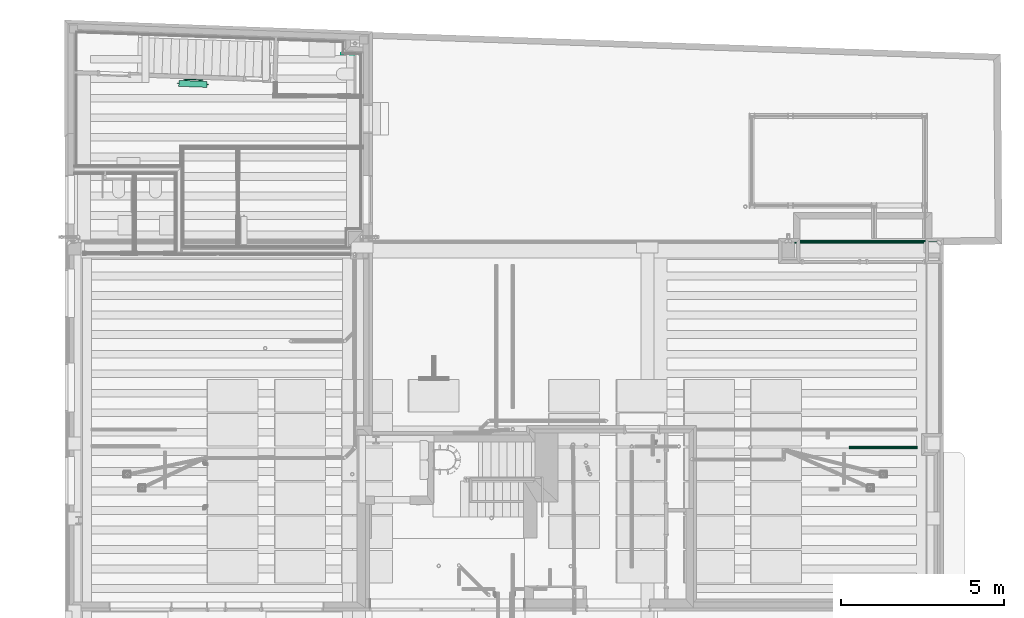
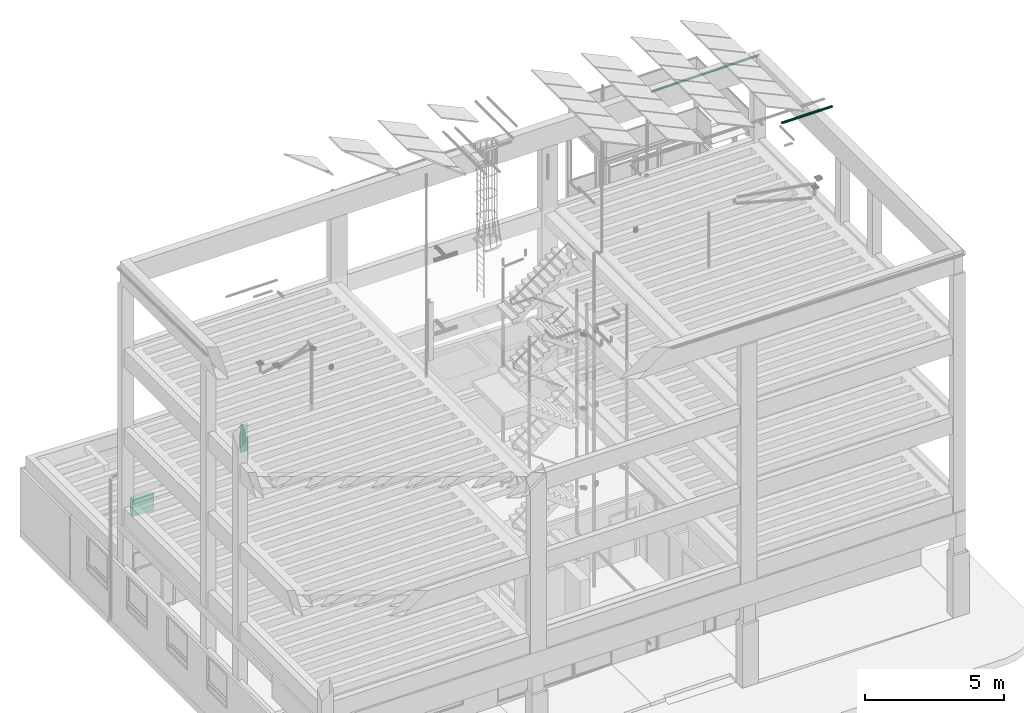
# One storey, part 68 of 108: 2 flow segments, 2 flow terminals.
"""IFC2X3 building model written with IfcOpenShell, lengths in metres."""

from ifc_helpers import new_model, entity, si_unit, converted_unit, derived_unit, money_unit, direction, frame, origin_with_axes, place, context, subcontext, project, spatial, open_shell, faceted_brep, surface_model, material, type_object, element, save


model = new_model("IFC2X3")

# Units and contexts
model_context = context("Model", 3, precision=1e-05, world=origin_with_axes(), true_north=direction((0.0, 1.0)))
body_context = subcontext(model_context, "Body", "Model", "MODEL_VIEW", scale=1.0)
ifc_project = project(units=[si_unit("LENGTHUNIT", "METRE"), si_unit("AREAUNIT", "SQUARE_METRE"), si_unit("VOLUMEUNIT", "CUBIC_METRE"), si_unit("ABSORBEDDOSEUNIT", "GRAY"), si_unit("AMOUNTOFSUBSTANCEUNIT", "MOLE"), si_unit("DOSEEQUIVALENTUNIT", "SIEVERT"), si_unit("ELECTRICCAPACITANCEUNIT", "FARAD"), si_unit("ELECTRICCHARGEUNIT", "COULOMB"), si_unit("ELECTRICCONDUCTANCEUNIT", "SIEMENS"), si_unit("ELECTRICCURRENTUNIT", "AMPERE"), si_unit("ELECTRICRESISTANCEUNIT", "OHM"), si_unit("ELECTRICVOLTAGEUNIT", "VOLT"), si_unit("ENERGYUNIT", "JOULE"), si_unit("FORCEUNIT", "NEWTON"), si_unit("FREQUENCYUNIT", "HERTZ"), si_unit("ILLUMINANCEUNIT", "LUX"), si_unit("INDUCTANCEUNIT", "HENRY"), si_unit("LUMINOUSFLUXUNIT", "LUMEN"), si_unit("LUMINOUSINTENSITYUNIT", "CANDELA"), si_unit("MAGNETICFLUXDENSITYUNIT", "TESLA"), si_unit("MAGNETICFLUXUNIT", "WEBER"), si_unit("MASSUNIT", "GRAM"), converted_unit("PLANEANGLEUNIT", "degree", entity("IfcReal", 0.0174532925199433), si_unit("PLANEANGLEUNIT", "RADIAN"), dimensions=[0, 0, 0, 0, 0, 0, 0]), si_unit("POWERUNIT", "WATT"), si_unit("PRESSUREUNIT", "PASCAL"), si_unit("RADIOACTIVITYUNIT", "BECQUEREL"), si_unit("SOLIDANGLEUNIT", "STERADIAN"), si_unit("THERMODYNAMICTEMPERATUREUNIT", "KELVIN"), si_unit("TIMEUNIT", "SECOND"), derived_unit("ACCELERATIONUNIT", [(si_unit("LENGTHUNIT", "METRE"), 1), (si_unit("TIMEUNIT", "SECOND"), -2)]), derived_unit("ANGULARVELOCITYUNIT", [(converted_unit("PLANEANGLEUNIT", "degree", entity("IfcReal", 0.0174532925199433), si_unit("PLANEANGLEUNIT", "RADIAN"), dimensions=[0, 0, 0, 0, 0, 0, 0]), 1), (si_unit("TIMEUNIT", "SECOND"), -1)]), derived_unit("CURVATUREUNIT", [(converted_unit("PLANEANGLEUNIT", "degree", entity("IfcReal", 0.0174532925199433), si_unit("PLANEANGLEUNIT", "RADIAN"), dimensions=[0, 0, 0, 0, 0, 0, 0]), 1), (si_unit("LENGTHUNIT", "METRE"), -1)]), derived_unit("DYNAMICVISCOSITYUNIT", [(si_unit("PRESSUREUNIT", "PASCAL"), 1), (si_unit("TIMEUNIT", "SECOND"), 1)]), derived_unit("HEATFLUXDENSITYUNIT", [(si_unit("POWERUNIT", "WATT"), 1), (si_unit("LENGTHUNIT", "METRE"), -2)]), derived_unit("HEATINGVALUEUNIT", [(si_unit("ENERGYUNIT", "JOULE"), 1), (si_unit("MASSUNIT", "GRAM"), -1)]), derived_unit("INTEGERCOUNTRATEUNIT", [(si_unit("TIMEUNIT", "SECOND"), -1)]), derived_unit("IONCONCENTRATIONUNIT", [(si_unit("MASSUNIT", "GRAM"), 1), (si_unit("VOLUMEUNIT", "CUBIC_METRE"), -1)]), derived_unit("ISOTHERMALMOISTURECAPACITYUNIT", [(si_unit("VOLUMEUNIT", "CUBIC_METRE"), 1), (si_unit("MASSUNIT", "GRAM"), -1)]), derived_unit("KINEMATICVISCOSITYUNIT", [(si_unit("AREAUNIT", "SQUARE_METRE"), 1), (si_unit("TIMEUNIT", "SECOND"), -1)]), derived_unit("LINEARFORCEUNIT", [(si_unit("FORCEUNIT", "NEWTON"), 1), (si_unit("LENGTHUNIT", "METRE"), -1)]), derived_unit("LINEARMOMENTUNIT", [(si_unit("FORCEUNIT", "NEWTON"), 1), (si_unit("LENGTHUNIT", "METRE"), -1)]), derived_unit("LINEARSTIFFNESSUNIT", [(si_unit("FORCEUNIT", "NEWTON"), 1), (si_unit("LENGTHUNIT", "METRE"), -1)]), derived_unit("LINEARVELOCITYUNIT", [(si_unit("LENGTHUNIT", "METRE"), 1), (si_unit("TIMEUNIT", "SECOND"), -1)]), derived_unit("LUMINOUSINTENSITYDISTRIBUTIONUNIT", [(si_unit("LUMINOUSINTENSITYUNIT", "CANDELA"), 1), (si_unit("LUMINOUSFLUXUNIT", "LUMEN"), -1)]), derived_unit("MASSDENSITYUNIT", [(si_unit("MASSUNIT", "GRAM"), 1), (si_unit("VOLUMEUNIT", "CUBIC_METRE"), -1)]), derived_unit("MASSFLOWRATEUNIT", [(si_unit("MASSUNIT", "GRAM"), 1), (si_unit("TIMEUNIT", "SECOND"), -1)]), derived_unit("MASSPERLENGTHUNIT", [(si_unit("MASSUNIT", "GRAM"), 1), (si_unit("LENGTHUNIT", "METRE"), -1)]), derived_unit("MODULUSOFELASTICITYUNIT", [(si_unit("FORCEUNIT", "NEWTON"), 1), (si_unit("AREAUNIT", "SQUARE_METRE"), -1)]), derived_unit("MODULUSOFLINEARSUBGRADEREACTIONUNIT", [(si_unit("FORCEUNIT", "NEWTON"), 1), (si_unit("LENGTHUNIT", "METRE"), -2)]), derived_unit("MODULUSOFROTATIONALSUBGRADEREACTIONUNIT", [(si_unit("FORCEUNIT", "NEWTON"), 1), (si_unit("LENGTHUNIT", "METRE"), 1)]), derived_unit("MODULUSOFSUBGRADEREACTIONUNIT", [(si_unit("FORCEUNIT", "NEWTON"), 1), (si_unit("VOLUMEUNIT", "CUBIC_METRE"), -1)]), derived_unit("MOISTUREDIFFUSIVITYUNIT", [(si_unit("VOLUMEUNIT", "CUBIC_METRE"), 1), (si_unit("TIMEUNIT", "SECOND"), -1)]), derived_unit("MOLECULARWEIGHTUNIT", [(si_unit("MASSUNIT", "GRAM"), 1), (si_unit("AMOUNTOFSUBSTANCEUNIT", "MOLE"), -1)]), derived_unit("PLANARFORCEUNIT", [(si_unit("FORCEUNIT", "NEWTON"), 1), (si_unit("LENGTHUNIT", "METRE"), -2)]), derived_unit("ROTATIONALFREQUENCYUNIT", [(si_unit("TIMEUNIT", "SECOND"), -1)]), derived_unit("ROTATIONALMASSUNIT", [(si_unit("MASSUNIT", "GRAM"), 1), (si_unit("LENGTHUNIT", "METRE"), 2)]), derived_unit("ROTATIONALSTIFFNESSUNIT", [(si_unit("FORCEUNIT", "NEWTON"), 1), (si_unit("LENGTHUNIT", "METRE"), 1), (converted_unit("PLANEANGLEUNIT", "degree", entity("IfcReal", 0.0174532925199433), si_unit("PLANEANGLEUNIT", "RADIAN"), dimensions=[0, 0, 0, 0, 0, 0, 0]), -1)]), derived_unit("SECTIONAREAINTEGRALUNIT", [(si_unit("LENGTHUNIT", "METRE"), 5)]), derived_unit("SECTIONMODULUSUNIT", [(si_unit("LENGTHUNIT", "METRE"), 3)]), derived_unit("SHEARMODULUSUNIT", [(si_unit("FORCEUNIT", "NEWTON"), 1), (si_unit("AREAUNIT", "SQUARE_METRE"), -1)]), derived_unit("SOUNDPOWERUNIT", [(si_unit("ENERGYUNIT", "JOULE"), 1), (si_unit("TIMEUNIT", "SECOND"), -1)]), derived_unit("SPECIFICHEATCAPACITYUNIT", [(si_unit("FORCEUNIT", "NEWTON"), 1), (si_unit("MASSUNIT", "GRAM"), -1), (si_unit("THERMODYNAMICTEMPERATUREUNIT", "KELVIN"), -1)]), derived_unit("TEMPERATUREGRADIENTUNIT", [(si_unit("THERMODYNAMICTEMPERATUREUNIT", "KELVIN"), 1), (si_unit("LENGTHUNIT", "METRE"), -1)]), derived_unit("THERMALADMITTANCEUNIT", [(si_unit("POWERUNIT", "WATT"), 1), (si_unit("AREAUNIT", "SQUARE_METRE"), -1), (si_unit("THERMODYNAMICTEMPERATUREUNIT", "KELVIN"), -1)]), derived_unit("THERMALCONDUCTANCEUNIT", [(si_unit("POWERUNIT", "WATT"), 1), (si_unit("LENGTHUNIT", "METRE"), -1), (si_unit("THERMODYNAMICTEMPERATUREUNIT", "KELVIN"), -1)]), derived_unit("THERMALEXPANSIONCOEFFICIENTUNIT", [(si_unit("THERMODYNAMICTEMPERATUREUNIT", "KELVIN"), -1)]), derived_unit("THERMALRESISTANCEUNIT", [(si_unit("AREAUNIT", "SQUARE_METRE"), 1), (si_unit("POWERUNIT", "WATT"), -1)]), derived_unit("THERMALTRANSMITTANCEUNIT", [(si_unit("POWERUNIT", "WATT"), 1), (si_unit("AREAUNIT", "SQUARE_METRE"), -1), (si_unit("THERMODYNAMICTEMPERATUREUNIT", "KELVIN"), -1)]), derived_unit("TORQUEUNIT", [(si_unit("FORCEUNIT", "NEWTON"), 1), (si_unit("LENGTHUNIT", "METRE"), 1)]), derived_unit("VAPORPERMEABILITYUNIT", [(si_unit("MASSUNIT", "GRAM"), 1), (si_unit("TIMEUNIT", "SECOND"), -1)]), derived_unit("VOLUMETRICFLOWRATEUNIT", [(si_unit("VOLUMEUNIT", "CUBIC_METRE"), 1), (si_unit("TIMEUNIT", "SECOND"), -1)]), derived_unit("WARPINGCONSTANTUNIT", [(si_unit("LENGTHUNIT", "METRE"), 6)]), derived_unit("WARPINGMOMENTUNIT", [(si_unit("FORCEUNIT", "NEWTON"), 1), (si_unit("LENGTHUNIT", "METRE"), 2)]), money_unit("GBP")], contexts=[model_context])

# Site, building, storey
site_placement = place(None, origin_with_axes())
site = spatial("IfcSite", under=ifc_project, at=site_placement, Name="Site", CompositionType="ELEMENT")
building_placement = place(site_placement, origin_with_axes())
building = spatial("IfcBuilding", under=site, at=building_placement, Name="Building01", CompositionType="ELEMENT")
storey_placement = place(building_placement, origin_with_axes())
storey = spatial("IfcBuildingStorey", under=building, at=storey_placement, Name="GF", CompositionType="ELEMENT", Elevation=0.0)

# Flow segments
ifc_material_1 = material(Name="M_BSUK_Ventilation")
duct_segment_type = type_object("IfcDuctSegmentType", Name="M-RoundDuct", PredefinedType="RIGIDSEGMENT")
flow_segment_1_placement = place(storey_placement, frame((26.180061, 8.482559, 17.28), z_axis=(0.0, 0.0, 1.0), x_axis=(-1.0, 0.0, 0.0)))
element("IfcFlowSegment", 1, at=flow_segment_1_placement, inside=storey, type_object=duct_segment_type, material=ifc_material_1, Name="M-RoundDuct", ObjectType="M-RoundDuct", context=body_context, shape_type="Brep", body=[
    faceted_brep([(2.100061, 0.0, -0.05), (0.0, 0.0, -0.05), (0.0, 0.019134, -0.046194), (2.100061, 0.019134, -0.046194), (0.0, 0.035355, -0.035355), (2.100061, 0.035355, -0.035355), (0.0, 0.046194, -0.019134), (2.100061, 0.046194, -0.019134), (0.0, 0.05, 0.0), (2.100061, 0.05, 0.0), (0.0, 0.046194, 0.019134), (2.100061, 0.046194, 0.019134), (0.0, 0.035355, 0.035355), (2.100061, 0.035355, 0.035355), (0.0, 0.019134, 0.046194), (2.100061, 0.019134, 0.046194), (0.0, 0.0, 0.05), (2.100061, 0.0, 0.05), (0.0, -0.019134, 0.046194), (2.100061, -0.019134, 0.046194), (0.0, -0.035355, 0.035355), (2.100061, -0.035355, 0.035355), (0.0, -0.046194, 0.019134), (2.100061, -0.046194, 0.019134), (0.0, -0.05, 0.0), (2.100061, -0.05, 0.0), (0.0, -0.046194, -0.019134), (2.100061, -0.046194, -0.019134), (0.0, -0.035355, -0.035355), (2.100061, -0.035355, -0.035355), (0.0, -0.019134, -0.046194), (2.100061, -0.019134, -0.046194)], [[[0, 1, 2, 3]], [[3, 2, 4, 5]], [[5, 4, 6, 7]], [[7, 6, 8, 9]], [[9, 8, 10, 11]], [[11, 10, 12, 13]], [[13, 12, 14, 15]], [[15, 14, 16, 17]], [[17, 16, 18, 19]], [[19, 18, 20, 21]], [[21, 20, 22, 23]], [[23, 22, 24, 25]], [[25, 24, 26, 27]], [[27, 26, 28, 29]], [[29, 28, 30, 31]], [[31, 30, 1, 0]]]),
])
ifc_material_2 = material(Name="M_BSUK_ColdWater")
pipe_segment_type = type_object("IfcPipeSegmentType", Name="M-BmpStraightpipe-DefaultPipe", PredefinedType="RIGIDSEGMENT")
flow_segment_2_placement = place(storey_placement, frame((22.311365, 14.80601, 15.440295), z_axis=(0.0, -1.0, 0.0), x_axis=(-0.99994498, 0.0, -0.01049024)))
element("IfcFlowSegment", 2, at=flow_segment_2_placement, inside=storey, type_object=pipe_segment_type, material=ifc_material_2, Name="M-BmpStraightpipe-DefaultPipe", ObjectType="M-BmpStraightpipe-DefaultPipe", context=body_context, shape_type="Brep", body=[
    faceted_brep([(-4.475881, 0.0, -0.05), (0.0, 0.0, -0.05), (0.0, -0.019134, -0.046194), (-4.475881, -0.019134, -0.046194), (0.0, -0.035355, -0.035355), (-4.475881, -0.035355, -0.035355), (0.0, -0.046194, -0.019134), (-4.475881, -0.046194, -0.019134), (0.0, -0.05, 0.0), (-4.475881, -0.05, 0.0), (0.0, -0.046194, 0.019134), (-4.475881, -0.046194, 0.019134), (0.0, -0.035355, 0.035355), (-4.475881, -0.035355, 0.035355), (0.0, -0.019134, 0.046194), (-4.475881, -0.019134, 0.046194), (0.0, 0.0, 0.05), (-4.475881, 0.0, 0.05), (0.0, 0.019134, 0.046194), (-4.475881, 0.019134, 0.046194), (0.0, 0.035355, 0.035355), (-4.475881, 0.035355, 0.035355), (0.0, 0.046194, 0.019134), (-4.475881, 0.046194, 0.019134), (0.0, 0.05, 0.0), (-4.475881, 0.05, 0.0), (0.0, 0.046194, -0.019134), (-4.475881, 0.046194, -0.019134), (0.0, 0.035355, -0.035355), (-4.475881, 0.035355, -0.035355), (0.0, 0.019134, -0.046194), (-4.475881, 0.019134, -0.046194)], [[[0, 1, 2, 3]], [[3, 2, 4, 5]], [[5, 4, 6, 7]], [[7, 6, 8, 9]], [[9, 8, 10, 11]], [[11, 10, 12, 13]], [[13, 12, 14, 15]], [[15, 14, 16, 17]], [[17, 16, 18, 19]], [[19, 18, 20, 21]], [[21, 20, 22, 23]], [[23, 22, 24, 25]], [[25, 24, 26, 27]], [[27, 26, 28, 29]], [[29, 28, 30, 31]], [[31, 30, 1, 0]]]),
])

# Space
space_1_placement = place(storey_placement, frame((8.552822, 20.936203, 0.217025), z_axis=(0.0, 0.0, 1.0), x_axis=(-0.99931258, 0.03707243, 0.0)))
space_1 = spatial("IfcSpace", under=storey, at=space_1_placement, Name="01", CompositionType="ELEMENT", InteriorOrExteriorSpace="NOTDEFINED")

# Flow terminal
space_heater_type_1 = type_object("IfcSpaceHeaterType", Name="M-BmvRadiatorpanel-Panel", PredefinedType="NOTDEFINED")
flow_terminal_1_placement = place(storey_placement, frame((3.496907, 19.667401, 0.813), z_axis=(0.0, 0.0, 1.0), x_axis=(0.99931515, -0.03700317, 0.0)))
element("IfcFlowTerminal", 3, at=flow_terminal_1_placement, inside=space_1, type_object=space_heater_type_1, material=ifc_material_1, Name="M-BmvRadiatorpanel-Panel", ObjectType="M-BmvRadiatorpanel-Panel", context=body_context, shape_type="SurfaceModel", body=[
    surface_model("IfcShellBasedSurfaceModel", [(0.865, -0.0925, 0.365), (0.865, 0.0925, 0.365), (0.0, 0.0925, 0.365), (0.0, -0.0925, 0.365), (0.865, -0.0925, -0.365), (0.865, 0.0925, -0.365), (0.0, -0.0925, -0.365), (0.0, 0.0925, -0.365), (0.1325, 0.12025, 0.175), (0.7325, 0.12025, 0.175), (0.7325, 0.14525, 0.175), (0.1325, 0.14525, 0.175), (0.7325, 0.14525, -0.175), (0.1325, 0.14525, -0.175), (0.7325, 0.12025, -0.175), (0.1325, 0.12025, -0.175), (0.2225, 0.0925, 0.0775), (0.2225, 0.12025, 0.0775), (0.239721, 0.12025, 0.080925), (0.239721, 0.0925, 0.080925), (0.25432, 0.12025, 0.09068), (0.25432, 0.0925, 0.09068), (0.264075, 0.12025, 0.105279), (0.264075, 0.0925, 0.105279), (0.2675, 0.12025, 0.1225), (0.2675, 0.0925, 0.1225), (0.264075, 0.12025, 0.139721), (0.264075, 0.0925, 0.139721), (0.25432, 0.12025, 0.15432), (0.25432, 0.0925, 0.15432), (0.239721, 0.12025, 0.164075), (0.239721, 0.0925, 0.164075), (0.2225, 0.12025, 0.1675), (0.2225, 0.0925, 0.1675), (0.205279, 0.12025, 0.164075), (0.205279, 0.0925, 0.164075), (0.19068, 0.12025, 0.15432), (0.19068, 0.0925, 0.15432), (0.180925, 0.12025, 0.139721), (0.180925, 0.0925, 0.139721), (0.1775, 0.12025, 0.1225), (0.1775, 0.0925, 0.1225), (0.180925, 0.12025, 0.105279), (0.180925, 0.0925, 0.105279), (0.19068, 0.12025, 0.09068), (0.19068, 0.0925, 0.09068), (0.205279, 0.12025, 0.080925), (0.205279, 0.0925, 0.080925), (0.6425, 0.0925, 0.0775), (0.6425, 0.12025, 0.0775), (0.659721, 0.12025, 0.080925), (0.659721, 0.0925, 0.080925), (0.67432, 0.12025, 0.09068), (0.67432, 0.0925, 0.09068), (0.684075, 0.12025, 0.105279), (0.684075, 0.0925, 0.105279), (0.6875, 0.12025, 0.1225), (0.6875, 0.0925, 0.1225), (0.684075, 0.12025, 0.139721), (0.684075, 0.0925, 0.139721), (0.67432, 0.12025, 0.15432), (0.67432, 0.0925, 0.15432), (0.659721, 0.12025, 0.164075), (0.659721, 0.0925, 0.164075), (0.6425, 0.12025, 0.1675), (0.6425, 0.0925, 0.1675), (0.625279, 0.12025, 0.164075), (0.625279, 0.0925, 0.164075), (0.61068, 0.12025, 0.15432), (0.61068, 0.0925, 0.15432), (0.600925, 0.12025, 0.139721), (0.600925, 0.0925, 0.139721), (0.5975, 0.12025, 0.1225), (0.5975, 0.0925, 0.1225), (0.600925, 0.12025, 0.105279), (0.600925, 0.0925, 0.105279), (0.61068, 0.12025, 0.09068), (0.61068, 0.0925, 0.09068), (0.625279, 0.12025, 0.080925), (0.625279, 0.0925, 0.080925), (-0.05, 0.0, -0.0225), (0.0, 0.0, -0.0225), (0.0, -0.004784, -0.021548), (-0.05, -0.004784, -0.021548), (0.0, -0.008839, -0.018839), (-0.05, -0.008839, -0.018839), (0.0, -0.011548, -0.014784), (-0.05, -0.011548, -0.014784), (0.0, -0.0125, -0.01), (-0.05, -0.0125, -0.01), (0.0, -0.011548, -0.005216), (-0.05, -0.011548, -0.005216), (0.0, -0.008839, -0.001161), (-0.05, -0.008839, -0.001161), (0.0, -0.004784, 0.001548), (-0.05, -0.004784, 0.001548), (0.0, 0.0, 0.0025), (-0.05, 0.0, 0.0025), (0.0, 0.004784, 0.001548), (-0.05, 0.004784, 0.001548), (0.0, 0.008839, -0.001161), (-0.05, 0.008839, -0.001161), (0.0, 0.011548, -0.005216), (-0.05, 0.011548, -0.005216), (0.0, 0.0125, -0.01), (-0.05, 0.0125, -0.01), (0.0, 0.011548, -0.014784), (-0.05, 0.011548, -0.014784), (0.0, 0.008839, -0.018839), (-0.05, 0.008839, -0.018839), (0.0, 0.004784, -0.021548), (-0.05, 0.004784, -0.021548), (0.915, 0.0, 0.2525), (0.865, 0.0, 0.2525), (0.865, 0.004784, 0.253452), (0.915, 0.004784, 0.253452), (0.865, 0.008839, 0.256161), (0.915, 0.008839, 0.256161), (0.865, 0.011548, 0.260216), (0.915, 0.011548, 0.260216), (0.865, 0.0125, 0.265), (0.915, 0.0125, 0.265), (0.865, 0.011548, 0.269784), (0.915, 0.011548, 0.269784), (0.865, 0.008839, 0.273839), (0.915, 0.008839, 0.273839), (0.865, 0.004784, 0.276548), (0.915, 0.004784, 0.276548), (0.865, 0.0, 0.2775), (0.915, 0.0, 0.2775), (0.865, -0.004784, 0.276548), (0.915, -0.004784, 0.276548), (0.865, -0.008839, 0.273839), (0.915, -0.008839, 0.273839), (0.865, -0.011548, 0.269784), (0.915, -0.011548, 0.269784), (0.865, -0.0125, 0.265), (0.915, -0.0125, 0.265), (0.865, -0.011548, 0.260216), (0.915, -0.011548, 0.260216), (0.865, -0.008839, 0.256161), (0.915, -0.008839, 0.256161), (0.865, -0.004784, 0.253452), (0.915, -0.004784, 0.253452)], [open_shell([[[0, 1, 2, 3]], [[4, 5, 1, 0]], [[6, 7, 5, 4]], [[3, 2, 7, 6]], [[1, 5, 7, 2]], [[3, 6, 4, 0]], [[8, 9, 10, 11]], [[11, 10, 12, 13]], [[13, 12, 14, 15]], [[15, 14, 9, 8]], [[9, 14, 12, 10]], [[11, 13, 15, 8]], [[16, 17, 18, 19]], [[19, 18, 20, 21]], [[21, 20, 22, 23]], [[23, 22, 24, 25]], [[25, 24, 26, 27]], [[27, 26, 28, 29]], [[29, 28, 30, 31]], [[31, 30, 32, 33]], [[33, 32, 34, 35]], [[35, 34, 36, 37]], [[37, 36, 38, 39]], [[39, 38, 40, 41]], [[41, 40, 42, 43]], [[43, 42, 44, 45]], [[45, 44, 46, 47]], [[47, 46, 17, 16]], [[48, 49, 50, 51]], [[51, 50, 52, 53]], [[53, 52, 54, 55]], [[55, 54, 56, 57]], [[57, 56, 58, 59]], [[59, 58, 60, 61]], [[61, 60, 62, 63]], [[63, 62, 64, 65]], [[65, 64, 66, 67]], [[67, 66, 68, 69]], [[69, 68, 70, 71]], [[71, 70, 72, 73]], [[73, 72, 74, 75]], [[75, 74, 76, 77]], [[77, 76, 78, 79]], [[79, 78, 49, 48]], [[80, 81, 82, 83]], [[83, 82, 84, 85]], [[85, 84, 86, 87]], [[87, 86, 88, 89]], [[89, 88, 90, 91]], [[91, 90, 92, 93]], [[93, 92, 94, 95]], [[95, 94, 96, 97]], [[97, 96, 98, 99]], [[99, 98, 100, 101]], [[101, 100, 102, 103]], [[103, 102, 104, 105]], [[105, 104, 106, 107]], [[107, 106, 108, 109]], [[109, 108, 110, 111]], [[111, 110, 81, 80]], [[112, 113, 114, 115]], [[115, 114, 116, 117]], [[117, 116, 118, 119]], [[119, 118, 120, 121]], [[121, 120, 122, 123]], [[123, 122, 124, 125]], [[125, 124, 126, 127]], [[127, 126, 128, 129]], [[129, 128, 130, 131]], [[131, 130, 132, 133]], [[133, 132, 134, 135]], [[135, 134, 136, 137]], [[137, 136, 138, 139]], [[139, 138, 140, 141]], [[141, 140, 142, 143]], [[143, 142, 113, 112]]])]),
])

# Space
space_2_placement = place(storey_placement, frame((6.554029, 21.010355, 0.217025), z_axis=(0.0, 0.0, 1.0), x_axis=(-0.03350696, -0.99943848, 0.0)))
space_2 = spatial("IfcSpace", under=storey, at=space_2_placement, Name="bath", CompositionType="ELEMENT", InteriorOrExteriorSpace="NOTDEFINED")

# Flow terminal
space_heater_type_2 = type_object("IfcSpaceHeaterType", Name="M-BmvRadiator-Column", PredefinedType="NOTDEFINED")
flow_terminal_2_placement = place(storey_placement, frame((8.835973, 20.56213, 1.498), z_axis=(0.0, 0.0, 1.0), x_axis=(0.99937968, -0.03521735, 0.0)))
element("IfcFlowTerminal", 4, at=flow_terminal_2_placement, inside=space_2, type_object=space_heater_type_2, material=ifc_material_1, Name="M-BmvRadiator-Column", ObjectType="M-BmvRadiator-Column", context=body_context, shape_type="SurfaceModel", body=[
    surface_model("IfcShellBasedSurfaceModel", [(0.0, -0.0125, 0.6), (0.0, -0.0125, -0.6), (0.0, 0.0125, -0.6), (0.0, 0.0125, 0.6), (-0.3, -0.0125, 0.6), (-0.3, -0.0125, -0.6), (-0.3, 0.0125, -0.6), (-0.3, 0.0125, 0.6), (-0.06, 0.0125, 0.6), (-0.06, -0.0125, 0.6), (-0.06, -0.0125, -0.6), (-0.06, 0.0125, -0.6), (-0.12, 0.0125, 0.6), (-0.12, -0.0125, 0.6), (-0.12, -0.0125, -0.6), (-0.12, 0.0125, -0.6), (-0.18, 0.0125, 0.6), (-0.18, -0.0125, 0.6), (-0.18, -0.0125, -0.6), (-0.18, 0.0125, -0.6), (-0.24, 0.0125, 0.6), (-0.24, -0.0125, 0.6), (-0.24, -0.0125, -0.6), (-0.24, 0.0125, -0.6), (0.05, 0.0, 0.4825), (0.0, 0.0, 0.4825), (0.0, 0.003827, 0.483261), (0.05, 0.003827, 0.483261), (0.0, 0.007071, 0.485429), (0.05, 0.007071, 0.485429), (0.0, 0.009239, 0.488673), (0.05, 0.009239, 0.488673), (0.0, 0.01, 0.4925), (0.05, 0.01, 0.4925), (0.0, 0.009239, 0.496327), (0.05, 0.009239, 0.496327), (0.0, 0.007071, 0.499571), (0.05, 0.007071, 0.499571), (0.0, 0.003827, 0.501739), (0.05, 0.003827, 0.501739), (0.0, 0.0, 0.5025), (0.05, 0.0, 0.5025), (0.0, -0.003827, 0.501739), (0.05, -0.003827, 0.501739), (0.0, -0.007071, 0.499571), (0.05, -0.007071, 0.499571), (0.0, -0.009239, 0.496327), (0.05, -0.009239, 0.496327), (0.0, -0.01, 0.4925), (0.05, -0.01, 0.4925), (0.0, -0.009239, 0.488673), (0.05, -0.009239, 0.488673), (0.0, -0.007071, 0.485429), (0.05, -0.007071, 0.485429), (0.0, -0.003827, 0.483261), (0.05, -0.003827, 0.483261), (-0.35, 0.0, 0.4884), (-0.3, 0.0, 0.4884), (-0.3, -0.003827, 0.489161), (-0.35, -0.003827, 0.489161), (-0.3, -0.007071, 0.491329), (-0.35, -0.007071, 0.491329), (-0.3, -0.009239, 0.494573), (-0.35, -0.009239, 0.494573), (-0.3, -0.01, 0.4984), (-0.35, -0.01, 0.4984), (-0.3, -0.009239, 0.502227), (-0.35, -0.009239, 0.502227), (-0.3, -0.007071, 0.505471), (-0.35, -0.007071, 0.505471), (-0.3, -0.003827, 0.507639), (-0.35, -0.003827, 0.507639), (-0.3, 0.0, 0.5084), (-0.35, 0.0, 0.5084), (-0.3, 0.003827, 0.507639), (-0.35, 0.003827, 0.507639), (-0.3, 0.007071, 0.505471), (-0.35, 0.007071, 0.505471), (-0.3, 0.009239, 0.502227), (-0.35, 0.009239, 0.502227), (-0.3, 0.01, 0.4984), (-0.35, 0.01, 0.4984), (-0.3, 0.009239, 0.494573), (-0.35, 0.009239, 0.494573), (-0.3, 0.007071, 0.491329), (-0.35, 0.007071, 0.491329), (-0.3, 0.003827, 0.489161), (-0.35, 0.003827, 0.489161)], [open_shell([[[0, 1, 2, 3]], [[4, 5, 6, 7]], [[8, 3, 0, 9]], [[9, 0, 1, 10]], [[10, 1, 2, 11]], [[11, 2, 3, 8]], [[12, 8, 9, 13]], [[13, 9, 10, 14]], [[14, 10, 11, 15]], [[15, 11, 8, 12]], [[16, 12, 13, 17]], [[17, 13, 14, 18]], [[18, 14, 15, 19]], [[19, 15, 12, 16]], [[20, 16, 17, 21]], [[21, 17, 18, 22]], [[22, 18, 19, 23]], [[23, 19, 16, 20]], [[7, 20, 21, 4]], [[4, 21, 22, 5]], [[5, 22, 23, 6]], [[6, 23, 20, 7]], [[24, 25, 26, 27]], [[27, 26, 28, 29]], [[29, 28, 30, 31]], [[31, 30, 32, 33]], [[33, 32, 34, 35]], [[35, 34, 36, 37]], [[37, 36, 38, 39]], [[39, 38, 40, 41]], [[41, 40, 42, 43]], [[43, 42, 44, 45]], [[45, 44, 46, 47]], [[47, 46, 48, 49]], [[49, 48, 50, 51]], [[51, 50, 52, 53]], [[53, 52, 54, 55]], [[55, 54, 25, 24]], [[56, 57, 58, 59]], [[59, 58, 60, 61]], [[61, 60, 62, 63]], [[63, 62, 64, 65]], [[65, 64, 66, 67]], [[67, 66, 68, 69]], [[69, 68, 70, 71]], [[71, 70, 72, 73]], [[73, 72, 74, 75]], [[75, 74, 76, 77]], [[77, 76, 78, 79]], [[79, 78, 80, 81]], [[81, 80, 82, 83]], [[83, 82, 84, 85]], [[85, 84, 86, 87]], [[87, 86, 57, 56]]])]),
])

save(model, "model.ifc")
